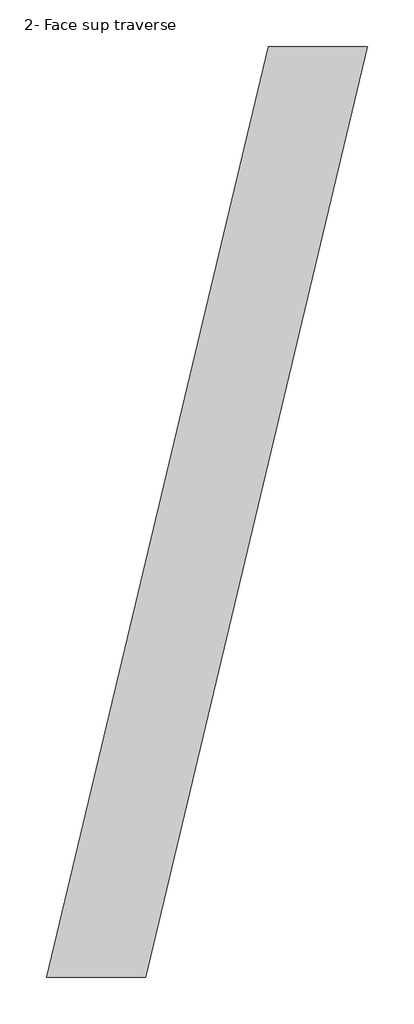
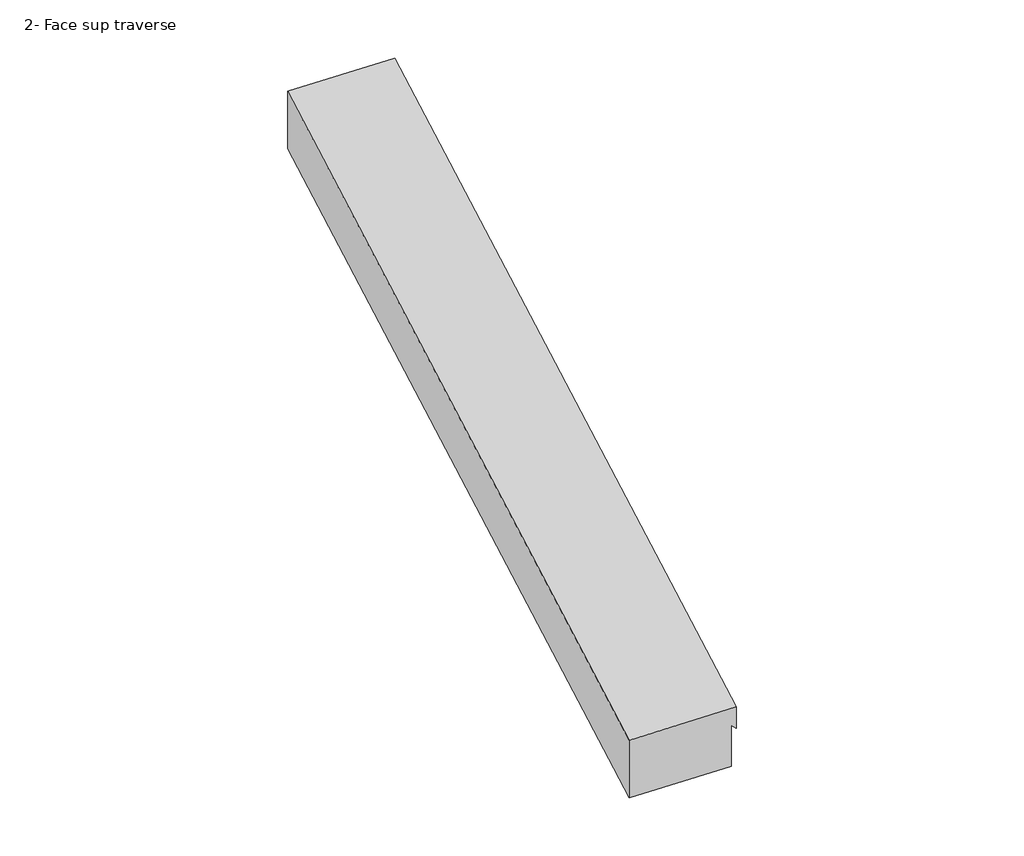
# One storey: 1 proxy.
"""IFC4 building model written with IfcOpenShell, lengths in millimetres."""

from ifc_helpers import new_model, si_unit, origin, place, context, project, spatial, transform, mapped, element, save
from components import generic_models_31f15003

model = new_model("IFC4")

# Units and contexts
model_context = context("Model", 3, world=origin())
ifc_project = project(units=[si_unit("LENGTHUNIT", "METRE", prefix="MILLI")], contexts=[model_context])

# Site, building, storey
site = spatial("IfcSite", under=ifc_project)
building = spatial("IfcBuilding", under=site)
storey = spatial("IfcBuildingStorey", under=building, Name="2- Face sup traverse", Elevation=6438.0)

# Proxy
placement = place(None, origin())
generic_models_shape = generic_models_31f15003(model_context)
element("IfcBuildingElementProxy", 1, Name="Contre-corniche S : contre-corniche S", ObjectType="Contre-corniche S : contre-corniche S", at=placement, inside=storey, context=model_context, shape_type="MappedRepresentation", body=[
    mapped(generic_models_shape, transform((0.0, 0.0, 0.0), x_axis=(1.0, 0.0, 0.0), y_axis=(0.0, 1.0, 0.0), z_axis=(0.0, 0.0, 1.0))),
])

save(model, "model.ifc")
